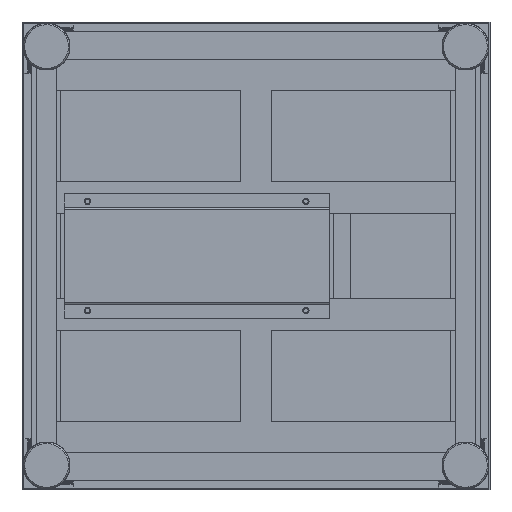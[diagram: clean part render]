
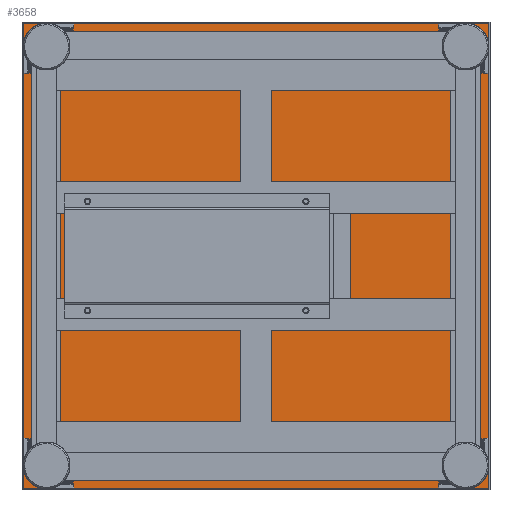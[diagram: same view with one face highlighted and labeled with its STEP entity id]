
A CAD part, front view. The second image highlights one B-rep face of the part: STEP entity #3658.
In plain terms, the highlighted planar face has unit normal (0, -1, 0).
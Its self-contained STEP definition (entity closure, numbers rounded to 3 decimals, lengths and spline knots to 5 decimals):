
#3658=ADVANCED_FACE('809:300',(#5831),#5832,.F.);
#5831=FACE_OUTER_BOUND('',#11783,.T.);
#5832=PLANE('',#11784);
#11783=EDGE_LOOP('',(#14986,#14987,#14988,#14989));
#11784=AXIS2_PLACEMENT_3D('',#14990,#14991,#14992);
#14986=ORIENTED_EDGE('',*,*,#22218,.F.);
#14987=ORIENTED_EDGE('',*,*,#22219,.F.);
#14988=ORIENTED_EDGE('',*,*,#22220,.F.);
#14989=ORIENTED_EDGE('',*,*,#22221,.F.);
#14990=CARTESIAN_POINT('',(-0.30011,0.079,-0.30057));
#14991=DIRECTION('',(0.,1.0,0.));
#14992=DIRECTION('',(0.,0.,1.0));
#22218=EDGE_CURVE('809:363',#26781,#26782,#26783,.F.);
#22219=EDGE_CURVE('809:366',#26784,#26781,#26785,.F.);
#22220=EDGE_CURVE('809:369',#26786,#26784,#26787,.F.);
#22221=EDGE_CURVE('809:372',#26782,#26786,#26788,.F.);
#26781=VERTEX_POINT('',#32507);
#26782=VERTEX_POINT('',#32508);
#26783=LINE('',#32509,#32510);
#26784=VERTEX_POINT('',#32511);
#26785=LINE('',#32512,#32513);
#26786=VERTEX_POINT('',#32514);
#26787=LINE('',#32515,#32516);
#26788=LINE('',#32517,#32518);
#32507=CARTESIAN_POINT('',(0.29839,0.079,-0.29907));
#32508=CARTESIAN_POINT('',(-0.29861,0.079,-0.29907));
#32509=CARTESIAN_POINT('',(-0.15011,0.079,-0.29907));
#32510=VECTOR('',#35754,1.0);
#32511=CARTESIAN_POINT('',(0.29839,0.079,0.29793));
#32512=CARTESIAN_POINT('',(0.29839,0.079,-0.15057));
#32513=VECTOR('',#35755,1.0);
#32514=CARTESIAN_POINT('',(-0.29861,0.079,0.29793));
#32515=CARTESIAN_POINT('',(-0.15011,0.079,0.29793));
#32516=VECTOR('',#35756,1.0);
#32517=CARTESIAN_POINT('',(-0.29861,0.079,-0.15057));
#32518=VECTOR('',#35757,1.0);
#35754=DIRECTION('',(1.0,0.,0.));
#35755=DIRECTION('',(0.,0.,1.0));
#35756=DIRECTION('',(-1.0,0.,0.));
#35757=DIRECTION('',(0.,0.,-1.0));
